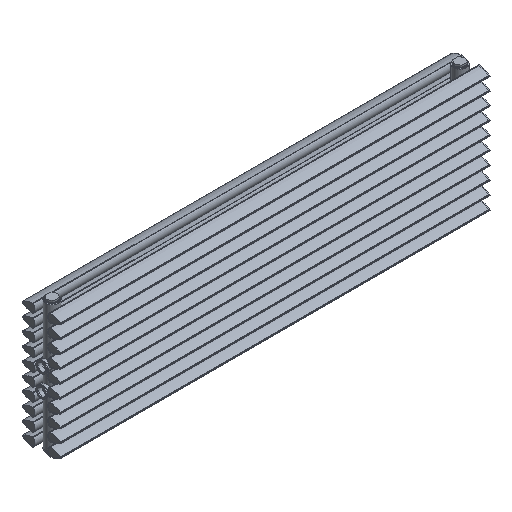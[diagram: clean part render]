
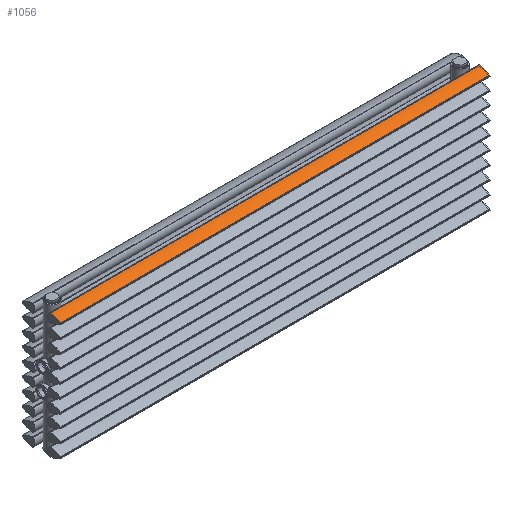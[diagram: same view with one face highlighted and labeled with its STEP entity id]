
A CAD part, isometric view. The second image highlights one B-rep face of the part: STEP entity #1056.
In plain terms, the highlighted cylindrical face has radius 51.638 mm (diameter 103.277 mm), a partial arc.
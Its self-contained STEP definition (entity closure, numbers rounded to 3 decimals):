
#15=LINE('',#2476,#49);
#16=LINE('',#2479,#50);
#49=VECTOR('',#1420,10.);
#50=VECTOR('',#1423,10.);
#354=FACE_OUTER_BOUND('',#458,.T.);
#458=EDGE_LOOP('',(#877,#878,#879,#880));
#513=CIRCLE('',#1197,51.638);
#514=CIRCLE('',#1198,51.638);
#597=VERTEX_POINT('',#2472);
#598=VERTEX_POINT('',#2473);
#599=VERTEX_POINT('',#2475);
#600=VERTEX_POINT('',#2477);
#698=EDGE_CURVE('',#597,#598,#513,.T.);
#699=EDGE_CURVE('',#597,#599,#15,.T.);
#700=EDGE_CURVE('',#600,#599,#514,.T.);
#701=EDGE_CURVE('',#598,#600,#16,.T.);
#877=ORIENTED_EDGE('',*,*,#698,.F.);
#878=ORIENTED_EDGE('',*,*,#699,.T.);
#879=ORIENTED_EDGE('',*,*,#700,.F.);
#880=ORIENTED_EDGE('',*,*,#701,.F.);
#1014=CYLINDRICAL_SURFACE('',#1196,51.638);
#1056=ADVANCED_FACE('',(#354),#1014,.T.);
#1196=AXIS2_PLACEMENT_3D('',#2471,#1416,#1417);
#1197=AXIS2_PLACEMENT_3D('',#2474,#1418,#1419);
#1198=AXIS2_PLACEMENT_3D('',#2478,#1421,#1422);
#1416=DIRECTION('center_axis',(0.,0.,-1.));
#1417=DIRECTION('ref_axis',(0.837,-0.547,0.));
#1418=DIRECTION('center_axis',(0.,0.,1.));
#1419=DIRECTION('ref_axis',(0.837,-0.547,0.));
#1420=DIRECTION('',(0.,0.,-1.));
#1421=DIRECTION('center_axis',(0.,0.,-1.));
#1422=DIRECTION('ref_axis',(0.837,-0.547,0.));
#1423=DIRECTION('',(0.,0.,-1.));
#2471=CARTESIAN_POINT('Origin',(-41.424,-0.617,0.));
#2472=CARTESIAN_POINT('',(1.804,-28.863,0.));
#2473=CARTESIAN_POINT('',(10.063,-4.573,0.));
#2474=CARTESIAN_POINT('Origin',(-41.424,-0.617,0.));
#2475=CARTESIAN_POINT('',(1.804,-28.863,-1000.));
#2476=CARTESIAN_POINT('',(1.804,-28.863,0.));
#2477=CARTESIAN_POINT('',(10.063,-4.573,-1000.));
#2478=CARTESIAN_POINT('Origin',(-41.424,-0.617,-1000.));
#2479=CARTESIAN_POINT('',(10.063,-4.573,0.));
